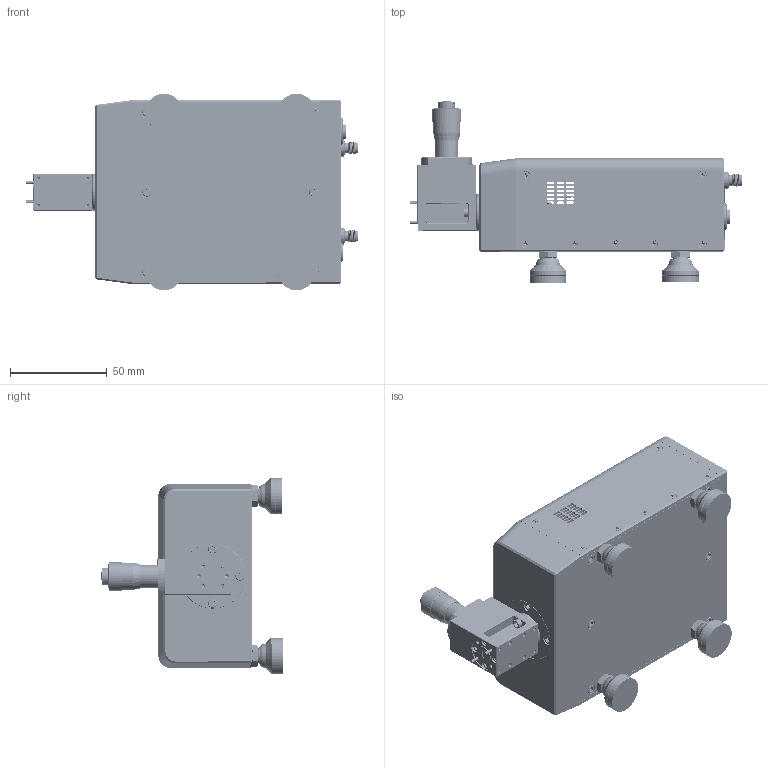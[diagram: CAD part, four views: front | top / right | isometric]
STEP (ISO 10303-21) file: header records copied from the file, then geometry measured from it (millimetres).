
FILE_DESCRIPTION (( 'STEP AP214' ), '1' );
FILE_NAME ('TO-RV-A.STEP', '2024-10-28T17:45:13', ( '' ), ( '' ), 'SwSTEP 2.0', 'SolidWorks 2021', '' );
FILE_SCHEMA (( 'AUTOMOTIVE_DESIGN' ));
Length unit declared in the file: inch
Products named in the file (1): TO-RV-A
Bounding box: 171.94 x 93.81 x 101.9 mm (x, y, z)
Volume: 260468.8 mm3; surface area: 136957 mm2
Topology: 79 solids, 90 shells, 4873 faces, 12635 edges, 7994 vertices
Faces by surface type: cylinder 2226, plane 1348, cone 975, bspline 275, sphere 37, torus 12
Entity records: 312059 total; most frequent: CARTESIAN_POINT 139573, ORIENTED_EDGE 24888, DIRECTION 20088, EDGE_CURVE 12444, VERTEX_POINT 7964, AXIS2_PLACEMENT_3D 7686, EDGE_LOOP 5366, LENGTH_MEASURE_WITH_UNIT 4954
